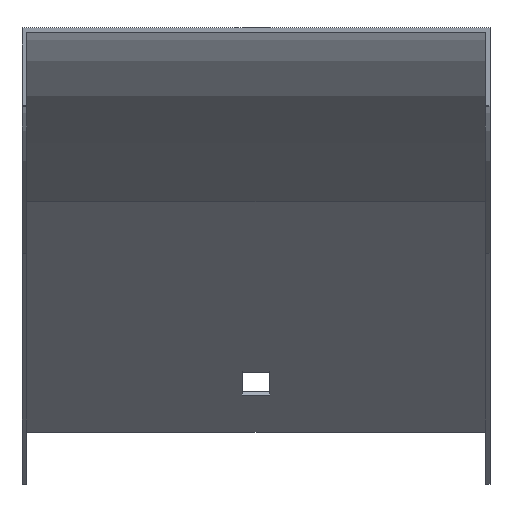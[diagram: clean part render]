
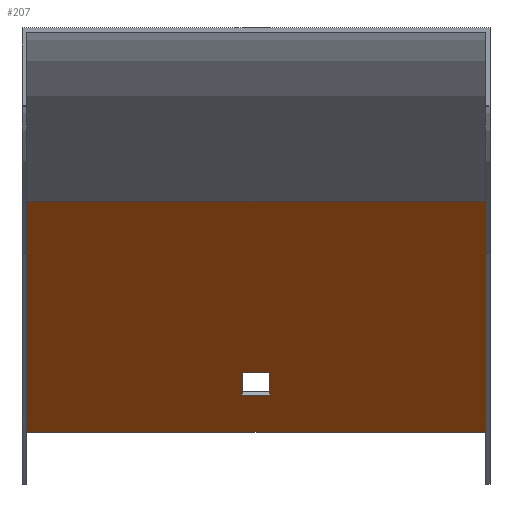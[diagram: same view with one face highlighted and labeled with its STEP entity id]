
A CAD part, top view. The second image highlights one B-rep face of the part: STEP entity #207.
In plain terms, the highlighted planar face has unit normal (0, -0.707, 0.707).
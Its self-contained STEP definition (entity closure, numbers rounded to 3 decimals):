
#18 = DIRECTION ( 'NONE',  ( -1., 0., 0. ) ) ;
#41 = FACE_OUTER_BOUND ( 'NONE', #710, .T. ) ;
#42 = VERTEX_POINT ( 'NONE', #458 ) ;
#43 = LINE ( 'NONE', #571, #725 ) ;
#44 = FACE_BOUND ( 'NONE', #255, .T. ) ;
#95 = EDGE_CURVE ( 'NONE', #42, #362, #552, .T. ) ;
#114 = VECTOR ( 'NONE', #18, 1000. ) ;
#134 = DIRECTION ( 'NONE',  ( 1., 0., 0. ) ) ;
#138 = LINE ( 'NONE', #547, #668 ) ;
#140 = VERTEX_POINT ( 'NONE', #546 ) ;
#144 = AXIS2_PLACEMENT_3D ( 'NONE', #432, #829, #623 ) ;
#150 = ORIENTED_EDGE ( 'NONE', *, *, #451, .T. ) ;
#156 = VERTEX_POINT ( 'NONE', #549 ) ;
#180 = CARTESIAN_POINT ( 'NONE',  ( 51., -74.735, -196.511 ) ) ;
#199 = CARTESIAN_POINT ( 'NONE',  ( 3., -74.735, -196.511 ) ) ;
#207 = ADVANCED_FACE ( 'NONE', ( #41, #44 ), #317, .T. ) ;
#213 = CARTESIAN_POINT ( 'NONE',  ( 51., -37.612, -159.388 ) ) ;
#214 = VERTEX_POINT ( 'NONE', #691 ) ;
#215 = VECTOR ( 'NONE', #256, 1000. ) ;
#255 = EDGE_LOOP ( 'NONE', ( #803, #150, #312, #434 ) ) ;
#256 = DIRECTION ( 'NONE',  ( -1., 0., 0. ) ) ;
#312 = ORIENTED_EDGE ( 'NONE', *, *, #378, .T. ) ;
#317 = PLANE ( 'NONE',  #144 ) ;
#320 = CARTESIAN_POINT ( 'NONE',  ( -50., -37.612, -159.388 ) ) ;
#323 = LINE ( 'NONE', #394, #215 ) ;
#352 = CARTESIAN_POINT ( 'NONE',  ( -3., -37.612, -159.388 ) ) ;
#357 = DIRECTION ( 'NONE',  ( 0., 0.707, 0.707 ) ) ;
#362 = VERTEX_POINT ( 'NONE', #320 ) ;
#373 = CARTESIAN_POINT ( 'NONE',  ( 51., -79.685, -201.461 ) ) ;
#378 = EDGE_CURVE ( 'NONE', #771, #818, #467, .T. ) ;
#382 = DIRECTION ( 'NONE',  ( 0., -0.707, -0.707 ) ) ;
#394 = CARTESIAN_POINT ( 'NONE',  ( 51., -87.816, -209.593 ) ) ;
#422 = VECTOR ( 'NONE', #598, 1000. ) ;
#429 = EDGE_CURVE ( 'NONE', #214, #362, #602, .T. ) ;
#432 = CARTESIAN_POINT ( 'NONE',  ( 51., -37.612, -159.388 ) ) ;
#434 = ORIENTED_EDGE ( 'NONE', *, *, #706, .T. ) ;
#437 = VECTOR ( 'NONE', #752, 1000. ) ;
#451 = EDGE_CURVE ( 'NONE', #506, #771, #663, .T. ) ;
#458 = CARTESIAN_POINT ( 'NONE',  ( -50., -87.816, -209.593 ) ) ;
#459 = ORIENTED_EDGE ( 'NONE', *, *, #429, .T. ) ;
#467 = LINE ( 'NONE', #180, #808 ) ;
#471 = LINE ( 'NONE', #373, #697 ) ;
#494 = EDGE_CURVE ( 'NONE', #140, #214, #138, .T. ) ;
#506 = VERTEX_POINT ( 'NONE', #745 ) ;
#525 = ORIENTED_EDGE ( 'NONE', *, *, #764, .F. ) ;
#541 = CARTESIAN_POINT ( 'NONE',  ( -50., -37.612, -159.388 ) ) ;
#546 = CARTESIAN_POINT ( 'NONE',  ( 50., -87.816, -209.593 ) ) ;
#547 = CARTESIAN_POINT ( 'NONE',  ( 50., -37.612, -159.388 ) ) ;
#549 = CARTESIAN_POINT ( 'NONE',  ( 3., -79.685, -201.461 ) ) ;
#552 = LINE ( 'NONE', #541, #437 ) ;
#559 = DIRECTION ( 'NONE',  ( -1., 0., 0. ) ) ;
#562 = EDGE_CURVE ( 'NONE', #156, #506, #471, .T. ) ;
#571 = CARTESIAN_POINT ( 'NONE',  ( 3., -37.612, -159.388 ) ) ;
#578 = ORIENTED_EDGE ( 'NONE', *, *, #494, .T. ) ;
#579 = CARTESIAN_POINT ( 'NONE',  ( -3., -74.735, -196.511 ) ) ;
#598 = DIRECTION ( 'NONE',  ( 0., 0.707, 0.707 ) ) ;
#602 = LINE ( 'NONE', #213, #114 ) ;
#623 = DIRECTION ( 'NONE',  ( 0., -0.707, -0.707 ) ) ;
#663 = LINE ( 'NONE', #352, #422 ) ;
#668 = VECTOR ( 'NONE', #357, 1000. ) ;
#691 = CARTESIAN_POINT ( 'NONE',  ( 50., -37.612, -159.388 ) ) ;
#697 = VECTOR ( 'NONE', #559, 1000. ) ;
#706 = EDGE_CURVE ( 'NONE', #818, #156, #43, .T. ) ;
#710 = EDGE_LOOP ( 'NONE', ( #757, #525, #578, #459 ) ) ;
#725 = VECTOR ( 'NONE', #382, 1000. ) ;
#745 = CARTESIAN_POINT ( 'NONE',  ( -3., -79.685, -201.461 ) ) ;
#752 = DIRECTION ( 'NONE',  ( 0., 0.707, 0.707 ) ) ;
#757 = ORIENTED_EDGE ( 'NONE', *, *, #95, .F. ) ;
#764 = EDGE_CURVE ( 'NONE', #140, #42, #323, .T. ) ;
#771 = VERTEX_POINT ( 'NONE', #579 ) ;
#803 = ORIENTED_EDGE ( 'NONE', *, *, #562, .T. ) ;
#808 = VECTOR ( 'NONE', #134, 1000. ) ;
#818 = VERTEX_POINT ( 'NONE', #199 ) ;
#829 = DIRECTION ( 'NONE',  ( 0., -0.707, 0.707 ) ) ;
